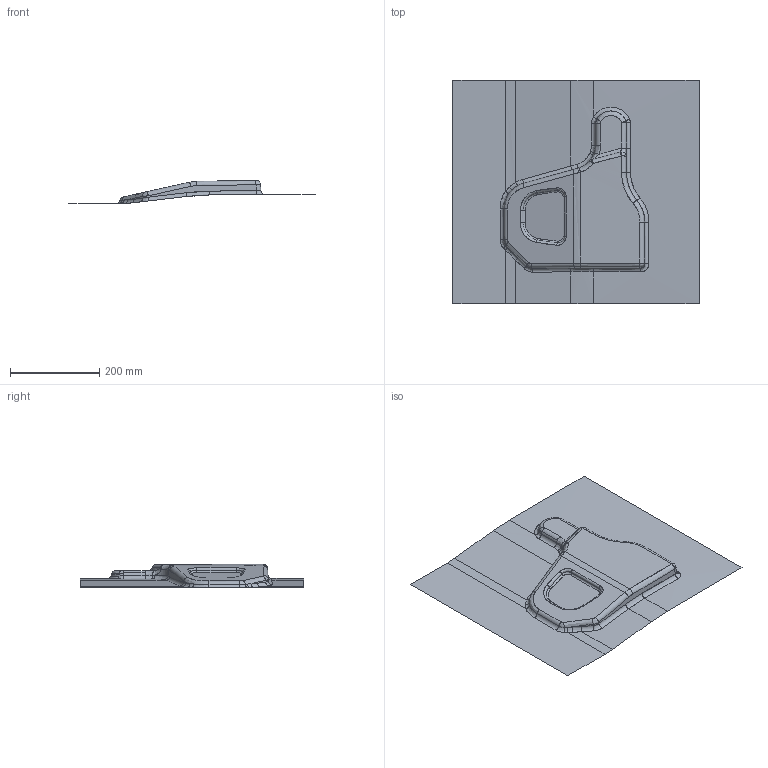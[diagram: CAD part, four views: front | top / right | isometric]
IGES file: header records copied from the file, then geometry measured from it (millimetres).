
Start section: START IGES DATA FILE
Global section: file name: ggg.igs; native system: DYNAFORM VER.5.5,DYNAFORM IGES TRANSLATOR, ENGINEERING TECHNOLOGY ASSOCIATES, INC.; preprocessor: 980406; date: 060905.132224; units: millimetre
Bounding box: 551 x 500 x 51.61 mm (x, y, z)
Surface area: 297518.2 mm2 (no closed solid volume)
Topology: 0 solids, 0 shells, 107 faces, 1150 edges, 1153 vertices
Faces by surface type: bspline 107
